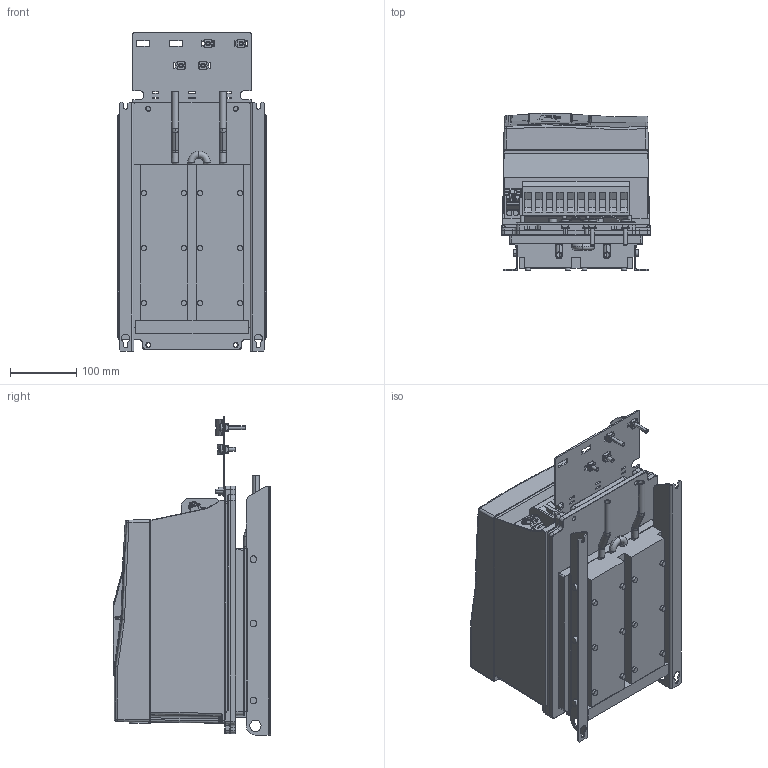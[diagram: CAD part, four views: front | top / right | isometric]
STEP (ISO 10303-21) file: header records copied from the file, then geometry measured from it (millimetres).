
FILE_DESCRIPTION (( 'STEP AP214' ), '1' );
FILE_NAME ('F6-4TW0-K001.STEP', '2020-12-09T12:27:37', ( '' ), ( '' ), 'SwSTEP 2.0', 'SolidWorks 2019', '' );
FILE_SCHEMA (( 'AUTOMOTIVE_DESIGN' ));
Length unit declared in the file: millimetre
Products named in the file (14): 10061644_000_Deckel (Kundenmodell); 10001537_000; 10044453_000_Schirmung (Kundenmodell); 10035735_000_Kundenmodell; 10061791_000; 10059765_000; 10058413_000; 10061645_000; F6-4TW0-K001; 10032600_000_Kundenmodell; 10063070_000; 10045828_000_Basis Leistungsteil + Zubeh”r TW0 (Kundenmodell); 10058448_000; 10059764_000_Blindabdeckung (Kundenmodell)
Assembly tree (15 placements, depth 4):
  F6-4TW0-K001
    10045828_000_Basis Leistungsteil + Zubeh”r TW0 (Kundenmodell)
      10061791_000
    10032600_000_Kundenmodell
      10061644_000_Deckel (Kundenmodell)
        10061645_000
      10001537_000  x3
      10058448_000
    10035735_000_Kundenmodell
      10059764_000_Blindabdeckung (Kundenmodell)
        10059765_000
      10058413_000
    10044453_000_Schirmung (Kundenmodell)
      10063070_000
Bounding box: 224 x 237.2 x 479.7 mm (x, y, z)
Volume: 14700621.5 mm3; surface area: 955861.2 mm2
Topology: 18 solids, 37 shells, 3507 faces, 9402 edges, 6017 vertices
Faces by surface type: plane 1599, cylinder 993, bspline 559, torus 172, cone 128, sphere 56
Entity records: 131440 total; most frequent: CARTESIAN_POINT 48395, ORIENTED_EDGE 18314, DIRECTION 15657, EDGE_CURVE 9157, VERTEX_POINT 5899, AXIS2_PLACEMENT_3D 5286, VECTOR 5085, LINE 5085
